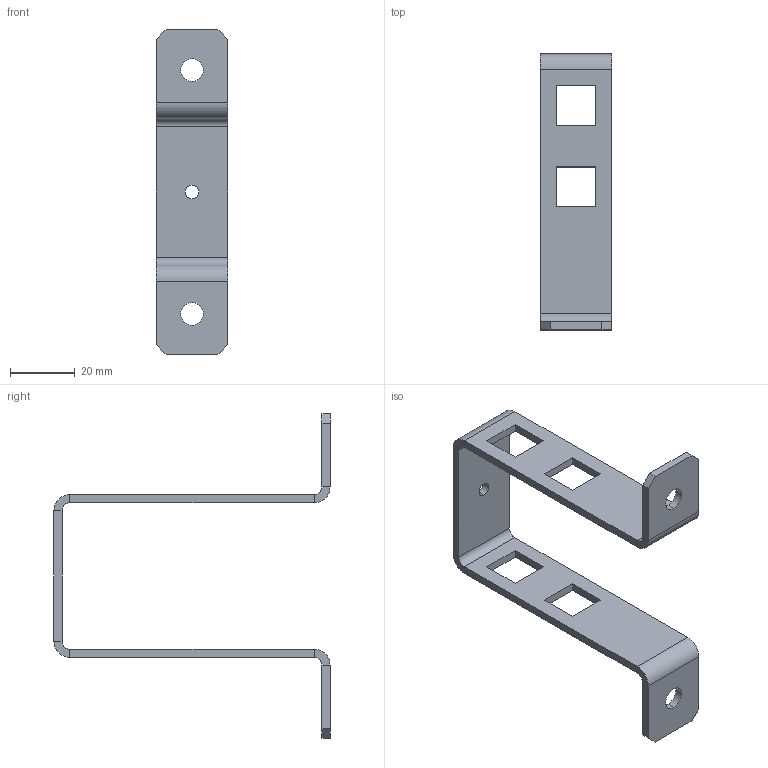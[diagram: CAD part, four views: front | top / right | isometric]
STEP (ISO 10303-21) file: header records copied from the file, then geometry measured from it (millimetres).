
FILE_DESCRIPTION (( 'STEP AP203' ), '1' );
FILE_NAME ('B 8.2 MG Äåðæàòåëü òðàâåðñû.STEP', '2022-06-02T06:51:05', ( '' ), ( '' ), 'SwSTEP 2.0', 'SolidWorks 2018', '' );
FILE_SCHEMA (( 'CONFIG_CONTROL_DESIGN' ));
Length unit declared in the file: millimetre
Products named in the file (1): B 8.2 MG Äåðæàòåëü òðàâåðñû
Bounding box: 22 x 85 x 100 mm (x, y, z)
Volume: 12445.4 mm3; surface area: 11977.3 mm2
Topology: 1 solids, 1 shells, 64 faces, 154 edges, 92 vertices
Faces by surface type: plane 50, cylinder 14
Entity records: 1915 total; most frequent: DIRECTION 312, CARTESIAN_POINT 311, ORIENTED_EDGE 308, EDGE_CURVE 154, VECTOR 126, LINE 126, AXIS2_PLACEMENT_3D 93, VERTEX_POINT 92
